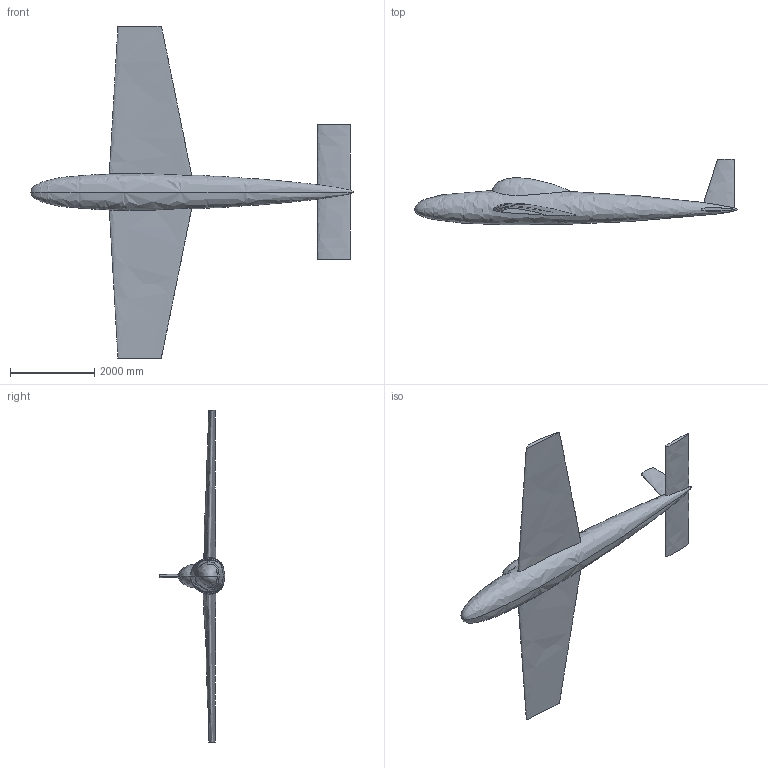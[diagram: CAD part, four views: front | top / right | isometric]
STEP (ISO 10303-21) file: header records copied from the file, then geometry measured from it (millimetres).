
FILE_DESCRIPTION(/* description */ (''),/* implementation_level */ '2;1');
FILE_NAME(/* name */ 'Самолётик - 17 поверхностей.stp',/* time_stamp */ '2025-11-27T13:18:52+03:00',/* author */ (''),/* organization */ (''),/* preprocessor_version */ 'ST-DEVELOPER v16.7',/* originating_system */ 'SIEMENS PLM Software NX 12.0',/* authorisation */ '');
FILE_SCHEMA (('AP203_CONFIGURATION_CONTROLLED_3D_DESIGN_OF_MECHANICAL_PARTS_AND_ASSEMBLIES_MIM_LF { 1 0 10303 403 2 1 2}'));
Length unit declared in the file: millimetre
Products named in the file (1): 0AB84967dpyv
Bounding box: 7671.23 x 1567.12 x 7900 mm (x, y, z)
Volume: 4203326075.8 mm3; surface area: 43443412.4 mm2
Topology: 1 solids, 1 shells, 17 faces, 35 edges, 20 vertices
Faces by surface type: bspline 8, plane 5, extrusion 4
Entity records: 2030 total; most frequent: CARTESIAN_POINT 1670, ORIENTED_EDGE 58, EDGE_CURVE 29, B_SPLINE_CURVE_WITH_KNOTS 29, EDGE_LOOP 23, VERTEX_POINT 20, DIRECTION 20, ADVANCED_FACE 17
